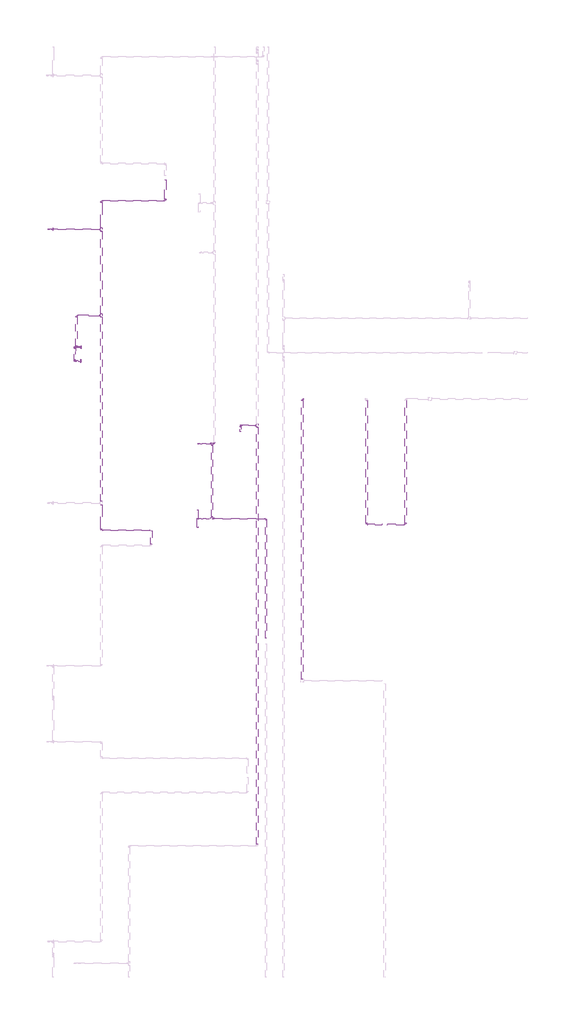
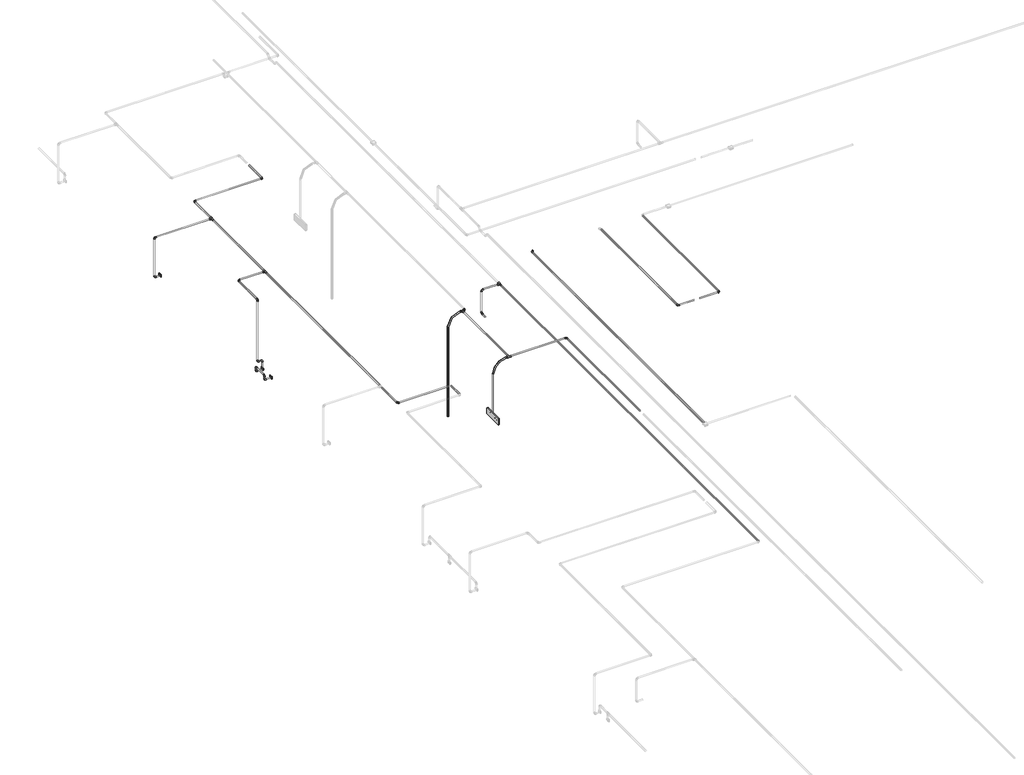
# One storey, part 14 of 40: 35 cable carrier segments, 27 cable carrier fittings, 3 electric appliances, 1 alarm.
"""IFC4 building model written with IfcOpenShell, lengths in millimetres."""

from ifc_helpers import new_model, si_unit, point, frame, frame_2d, origin, place, context, project, spatial, circle_curve, trimmed, segment, composite_curve, outline, extrude, transform, mapped, element, save
from components import alarm_4b7e8fd8, cable_carrier_fitting_69f1a801, cable_carrier_fitting_6f8a8c02, cable_carrier_fitting_d6922372, cable_carrier_fitting_8fd13dfc, cable_carrier_fitting_70942936, electric_appliance_5961a143

model = new_model("IFC4")

# Units and contexts
model_context = context("Model", 3, world=origin())
ifc_project = project(units=[si_unit("LENGTHUNIT", "METRE", prefix="MILLI")], contexts=[model_context])

# Site, building, storey
site = spatial("IfcSite", under=ifc_project)
building = spatial("IfcBuilding", under=site)
storey = spatial("IfcBuildingStorey", under=building, Name="1 этаж", Elevation=0.0)

# Alarm
placement = place(None, origin())
alarm_shape = alarm_4b7e8fd8(model_context)
element("IfcAlarm", 1, ObjectType="RBZ_Оповещатель_Световой_Рубеж_ОПОП1-R3(грань) : ОПОП 1-R3 \"Выход\"", at=placement, inside=storey, context=model_context, shape_type="MappedRepresentation", body=[
    mapped(alarm_shape, transform((-35912.3240021, 2404.6370105, 2300.0), x_axis=(0.0, 1.0, 0.0), y_axis=(0.0, 0.0, 1.0), z_axis=(1.0, 0.0, 0.0))),
])

# Cable carrier fittings
cable_carrier_fitting_shape = cable_carrier_fitting_69f1a801(model_context)
element("IfcCableCarrierFitting", 2, ObjectType="ADSK_Поворот_Минимальный размер : Неспецифицируемый", at=placement, inside=storey, context=model_context, shape_type="MappedRepresentation", body=[
    mapped(cable_carrier_fitting_shape, transform((-32465.8231258, 2309.6370105, 3187.0041146), x_axis=(0.9999999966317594, 0.0, 8.20760701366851e-05), y_axis=(0.0, 1.0000000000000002, 0.0), z_axis=(-8.20760701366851e-05, 0.0, 0.9999999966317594))),
])
element("IfcCableCarrierFitting", 3, ObjectType="ADSK_Поворот_Минимальный размер : Неспецифицируемый", at=placement, inside=storey, context=model_context, shape_type="MappedRepresentation", body=[
    mapped(cable_carrier_fitting_shape, transform((-35623.0641762, 3642.1370105, 3190.0666752), x_axis=(1.0, 0.0, 0.0), y_axis=(0.0, 1.0, 0.0), z_axis=(0.0, 0.0, 1.0))),
])
element("IfcCableCarrierFitting", 4, ObjectType="ADSK_Поворот_Минимальный размер : Неспецифицируемый", at=placement, inside=storey, context=model_context, shape_type="MappedRepresentation", body=[
    mapped(cable_carrier_fitting_shape, transform((-34172.3240021, 4379.6370105, 3187.0), x_axis=(-0.9999999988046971, 0.0, -4.8893821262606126e-05), y_axis=(0.0, -1.0, 0.0), z_axis=(-4.8893821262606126e-05, 0.0, 0.9999999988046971))),
])
element("IfcCableCarrierFitting", 5, ObjectType="ADSK_Поворот_Минимальный размер : Неспецифицируемый", at=placement, inside=storey, context=model_context, shape_type="MappedRepresentation", body=[
    mapped(cable_carrier_fitting_shape, transform((-33108.8239961, 2309.6370105, 3187.002391), x_axis=(0.0, -1.0, 0.0), y_axis=(1.0, 0.0, 0.0), z_axis=(0.0, 0.0, 1.0))),
])
element("IfcCableCarrierFitting", 6, ObjectType="ADSK_Поворот_Минимальный размер : Неспецифицируемый", at=placement, inside=storey, context=model_context, shape_type="MappedRepresentation", body=[
    mapped(cable_carrier_fitting_shape, transform((-34772.3240021, 2404.6370107, 3187.0), x_axis=(0.0, 1.0, 0.0), y_axis=(-0.9999999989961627, 0.0, 4.480708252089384e-05), z_axis=(4.480708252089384e-05, 0.0, 0.9999999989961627))),
])
element("IfcCableCarrierFitting", 7, ObjectType="ADSK_Поворот_Минимальный размер : Неспецифицируемый", at=placement, inside=storey, context=model_context, shape_type="MappedRepresentation", body=[
    mapped(cable_carrier_fitting_shape, transform((-37489.3240021, 2212.3808591, 3187.0), x_axis=(0.0, -1.0, 0.0), y_axis=(1.0, 0.0, 0.0), z_axis=(0.0, 0.0, 1.0))),
])
element("IfcCableCarrierFitting", 8, ObjectType="ADSK_Поворот_Минимальный размер : Неспецифицируемый", at=placement, inside=storey, context=model_context, shape_type="MappedRepresentation", body=[
    mapped(cable_carrier_fitting_shape, transform((-38370.3240021, 7177.1370105, 2535.1), x_axis=(-1.0, 0.0, 0.0), y_axis=(0.0, 0.0, 1.0), z_axis=(0.0, 1.0, 0.0))),
])
element("IfcCableCarrierFitting", 9, ObjectType="ADSK_Поворот_Минимальный размер : Неспецифицируемый", at=placement, inside=storey, context=model_context, shape_type="MappedRepresentation", body=[
    mapped(cable_carrier_fitting_shape, transform((-37489.3240021, 7649.6370105, 3187.0), x_axis=(-1.0, 0.0, 0.0), y_axis=(0.0, -1.0, 0.0), z_axis=(0.0, 0.0, 1.0))),
])
element("IfcCableCarrierFitting", 10, ObjectType="ADSK_Поворот_Минимальный размер : Неспецифицируемый", at=placement, inside=storey, context=model_context, shape_type="MappedRepresentation", body=[
    mapped(cable_carrier_fitting_shape, transform((-36434.8240021, 7649.6370105, 3187.0), x_axis=(1.0, 0.0, 0.0), y_axis=(0.0, 1.0, 0.0), z_axis=(0.0, 0.0, 1.0))),
])
element("IfcCableCarrierFitting", 11, ObjectType="ADSK_Поворот_Минимальный размер : Неспецифицируемый", at=placement, inside=storey, context=model_context, shape_type="MappedRepresentation", body=[
    mapped(cable_carrier_fitting_shape, transform((-35192.3240021, 3943.8368161, 2797.4861504), x_axis=(0.0, 1.0, 0.0), y_axis=(0.0, 0.0, 1.0), z_axis=(1.0, 0.0, 0.0))),
])
element("IfcCableCarrierFitting", 12, ObjectType="ADSK_Поворот_Минимальный размер : Неспецифицируемый", at=placement, inside=storey, context=model_context, shape_type="MappedRepresentation", body=[
    mapped(cable_carrier_fitting_shape, transform((-37902.3240021, 5754.6370105, 3187.0), x_axis=(-1.0, 0.0, 0.0), y_axis=(0.0, -1.0, 0.0), z_axis=(0.0, 0.0, 1.0))),
])
element("IfcCableCarrierFitting", 13, ObjectType="ADSK_Поворот_Минимальный размер : Неспецифицируемый", at=placement, inside=storey, context=model_context, shape_type="MappedRepresentation", body=[
    mapped(cable_carrier_fitting_shape, transform((-37929.5238077, 5005.249469, 2028.0911237), x_axis=(-1.0, 0.0, 0.0), y_axis=(0.0, 0.0, 1.0), z_axis=(0.0, 1.0, 0.0))),
])
element("IfcCableCarrierFitting", 14, ObjectType="ADSK_Поворот_Минимальный размер : Неспецифицируемый", at=placement, inside=storey, context=model_context, shape_type="MappedRepresentation", body=[
    mapped(cable_carrier_fitting_shape, transform((-37929.5238077, 5235.4762014, 2028.0911237), x_axis=(-1.0, 0.0, 0.0), y_axis=(0.0, 0.0, 1.0), z_axis=(0.0, 1.0, 0.0))),
])
element("IfcCableCarrierFitting", 15, ObjectType="ADSK_Поворот_Минимальный размер : Неспецифицируемый", at=placement, inside=storey, context=model_context, shape_type="MappedRepresentation", body=[
    mapped(cable_carrier_fitting_shape, transform((-37929.5238077, 5235.4762014, 2100.0), x_axis=(0.0, 0.0, 1.0), y_axis=(0.03870343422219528, -0.9992507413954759, 0.0), z_axis=(0.9992507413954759, 0.03870343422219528, 0.0))),
])
element("IfcCableCarrierFitting", 16, ObjectType="ADSK_Поворот_Минимальный размер : Неспецифицируемый", at=placement, inside=storey, context=model_context, shape_type="MappedRepresentation", body=[
    mapped(cable_carrier_fitting_shape, transform((-37929.5238077, 5005.249469, 2100.0), x_axis=(0.0, 0.0, 1.0), y_axis=(-0.03870343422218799, 0.9992507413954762, 0.0), z_axis=(-0.9992507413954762, -0.03870343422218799, 0.0))),
])
element("IfcCableCarrierFitting", 17, ObjectType="ADSK_Поворот_Минимальный размер : Неспецифицируемый", at=placement, inside=storey, context=model_context, shape_type="MappedRepresentation", body=[
    mapped(cable_carrier_fitting_shape, transform((-37829.3240021, 5235.4762014, 2171.0), x_axis=(0.0, 0.0, 1.0), y_axis=(-1.0, 0.0, 0.0), z_axis=(0.0, -1.0, 0.0))),
])
element("IfcCableCarrierFitting", 18, ObjectType="ADSK_Поворот_Минимальный размер : Неспецифицируемый", at=placement, inside=storey, context=model_context, shape_type="MappedRepresentation", body=[
    mapped(cable_carrier_fitting_shape, transform((-37902.3240021, 5235.4762014, 3187.0), x_axis=(0.0, -1.0, 0.0), y_axis=(0.0, 0.0, -1.0), z_axis=(1.0, 0.0, 0.0))),
])
element("IfcCableCarrierFitting", 19, ObjectType="ADSK_Поворот_Минимальный размер : Неспецифицируемый", at=placement, inside=storey, context=model_context, shape_type="MappedRepresentation", body=[
    mapped(cable_carrier_fitting_shape, transform((-37902.3240021, 5235.4762014, 2171.0), x_axis=(-1.0, 0.0, 0.0), y_axis=(0.0, 0.0, 1.0), z_axis=(0.0, 1.0, 0.0))),
])
element("IfcCableCarrierFitting", 20, ObjectType="ADSK_Поворот_Минимальный размер : Неспецифицируемый", at=placement, inside=storey, context=model_context, shape_type="MappedRepresentation", body=[
    mapped(cable_carrier_fitting_shape, transform((-38370.3240021, 7177.1370105, 3187.0), x_axis=(0.0, 0.0, 1.0), y_axis=(1.0, 0.0, 0.0), z_axis=(0.0, 1.0, 0.0))),
])
cable_carrier_fitting_2_shape = cable_carrier_fitting_6f8a8c02(model_context)
element("IfcCableCarrierFitting", 21, ObjectType="ADSK_Поворот_Минимальный размер : Неспецифицируемый", at=placement, inside=storey, context=model_context, shape_type="MappedRepresentation", body=[
    mapped(cable_carrier_fitting_2_shape, transform((-35884.8402119, 3642.1370105, 3191.6), x_axis=(0.0, 0.0, 1.0), y_axis=(1.0, 0.0, 0.0), z_axis=(0.0, 1.0, 0.0))),
])
cable_carrier_fitting_3_shape = cable_carrier_fitting_d6922372(model_context)
element("IfcCableCarrierFitting", 22, ObjectType="ADSK_Поворот_Минимальный размер : Неспецифицируемый", at=placement, inside=storey, context=model_context, shape_type="MappedRepresentation", body=[
    mapped(cable_carrier_fitting_3_shape, transform((-35902.3241209, 2404.6370107, 3187.0297673), x_axis=(0.0, 0.0, 1.0), y_axis=(1.0, 0.0, 0.0), z_axis=(0.0, 1.0, 0.0))),
])
cable_carrier_fitting_4_shape = cable_carrier_fitting_8fd13dfc(model_context)
element("IfcCableCarrierFitting", 23, ObjectType="ADSK_Тройник : ПВХ", at=placement, inside=storey, context=model_context, shape_type="MappedRepresentation", body=[
    mapped(cable_carrier_fitting_4_shape, transform((-35662.3241209, 2404.6370107, 3187.0235289), x_axis=(-0.9999999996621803, 0.0, 2.5993065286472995e-05), y_axis=(0.0, -1.0000000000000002, 0.0), z_axis=(2.5993065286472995e-05, 0.0, 0.9999999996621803))),
])
element("IfcCableCarrierFitting", 24, ObjectType="ADSK_Тройник : ПВХ", at=placement, inside=storey, context=model_context, shape_type="MappedRepresentation", body=[
    mapped(cable_carrier_fitting_4_shape, transform((-35662.3241209, 3642.1370105, 3187.0235289), x_axis=(1.0, 0.0, 0.0), y_axis=(0.0, 1.0, 0.0), z_axis=(0.0, 0.0, 1.0))),
])
element("IfcCableCarrierFitting", 25, ObjectType="ADSK_Тройник : ПВХ", at=placement, inside=storey, context=model_context, shape_type="MappedRepresentation", body=[
    mapped(cable_carrier_fitting_4_shape, transform((-37489.3240021, 5754.6370105, 3187.0), x_axis=(0.0, -1.0, 0.0), y_axis=(1.0, 0.0, 0.0), z_axis=(0.0, 0.0, 1.0))),
])
element("IfcCableCarrierFitting", 26, ObjectType="ADSK_Тройник : ПВХ", at=placement, inside=storey, context=model_context, shape_type="MappedRepresentation", body=[
    mapped(cable_carrier_fitting_4_shape, transform((-37489.3240021, 7177.1370105, 3187.0), x_axis=(0.0, -1.0, 0.0), y_axis=(1.0, 0.0, 0.0), z_axis=(0.0, 0.0, 1.0))),
])
element("IfcCableCarrierFitting", 27, ObjectType="ADSK_Тройник : ПВХ", at=placement, inside=storey, context=model_context, shape_type="MappedRepresentation", body=[
    mapped(cable_carrier_fitting_4_shape, transform((-34914.8240021, 3943.8368161, 3179.9916728), x_axis=(0.0, -0.9999999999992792, 1.2006099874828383e-06), y_axis=(1.0, 0.0, 0.0), z_axis=(0.0, 1.2006099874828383e-06, 0.9999999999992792))),
])
cable_carrier_fitting_5_shape = cable_carrier_fitting_70942936(model_context)
element("IfcCableCarrierFitting", 28, ObjectType="ADSK_Поворот_Минимальный размер : Неспецифицируемый", at=placement, inside=storey, context=model_context, shape_type="MappedRepresentation", body=[
    mapped(cable_carrier_fitting_5_shape, transform((-35192.3240021, 3943.8368161, 3180.0603722), x_axis=(0.0, 0.0, 1.0), y_axis=(1.0, 0.0, 0.0), z_axis=(0.0, 1.0, 0.0))),
])

# Cable carrier segments
element("IfcCableCarrierSegment", 29, ObjectType="Гофрированная труба", at=placement, inside=storey, context=model_context, shape_type="SweptSolid", body=[
    extrude(outline(composite_curve([segment(trimmed(circle_curve(frame_2d((2309.6370105, 3187.002391)), 10.0), [point((2299.6370105, 3187.002391))], [point((2309.6370105, 3197.002391))], False, "CARTESIAN"), True, "CONTINUOUS"), segment(trimmed(circle_curve(frame_2d((2309.6370105, 3187.002391)), 10.0), [point((2309.6370105, 3197.002391))], [point((2319.6370105, 3187.002391))], False, "CARTESIAN"), True, "CONTINUOUS"), segment(trimmed(circle_curve(frame_2d((2309.6370105, 3187.002391)), 10.0), [point((2319.6370105, 3187.002391))], [point((2309.6370105, 3177.002391))], False, "CARTESIAN"), True, "CONTINUOUS"), segment(trimmed(circle_curve(frame_2d((2309.6370105, 3187.002391)), 10.0), [point((2309.6370105, 3177.002391))], [point((2299.6370105, 3187.002391))], False, "CARTESIAN"), True, "CONTINUOUS")], self_intersect=False)), frame((-32765.8240021, 0.0, 0.0), z_axis=(1.0, 0.0, 0.0), x_axis=(0.0, 1.0, 0.0)), (0.0, 0.0, 1.0), 279.0008764),
])
element("IfcCableCarrierSegment", 30, ObjectType="Гофрированная труба", at=placement, inside=storey, context=model_context, shape_type="SweptSolid", body=[
    extrude(outline(composite_curve([segment(trimmed(circle_curve(frame_2d((3187.0041146, -32465.8231258)), 10.0), [point((3187.0049354, -32455.8231258))], [point((3197.0041146, -32465.8239465))], False, "CARTESIAN"), True, "CONTINUOUS"), segment(trimmed(circle_curve(frame_2d((3187.0041146, -32465.8231258)), 10.0), [point((3197.0041146, -32465.8239465))], [point((3187.0032938, -32475.8231257))], False, "CARTESIAN"), True, "CONTINUOUS"), segment(trimmed(circle_curve(frame_2d((3187.0041146, -32465.8231258)), 10.0), [point((3187.0032938, -32475.8231257))], [point((3177.0041146, -32465.822305))], False, "CARTESIAN"), True, "CONTINUOUS"), segment(trimmed(circle_curve(frame_2d((3187.0041146, -32465.8231258)), 10.0), [point((3177.0041146, -32465.822305))], [point((3187.0049354, -32455.8231258))], False, "CARTESIAN"), True, "CONTINUOUS")], self_intersect=False)), frame((0.0, 2330.6370105, 0.0), z_axis=(0.0, 1.0, 0.0), x_axis=(0.0, 0.0, 1.0)), (0.0, 0.0, 1.0), 2027.9999998),
])
element("IfcCableCarrierSegment", 31, ObjectType="Гофрированная труба", at=placement, inside=storey, context=model_context, shape_type="SweptSolid", body=[
    extrude(outline(composite_curve([segment(trimmed(circle_curve(frame_2d((3187.0, -34172.3240021)), 10.0), [point((3187.0, -34162.3240021))], [point((3197.0, -34172.3240021))], False, "CARTESIAN"), True, "CONTINUOUS"), segment(trimmed(circle_curve(frame_2d((3187.0, -34172.3240021)), 10.0), [point((3197.0, -34172.3240021))], [point((3187.0, -34182.3240021))], False, "CARTESIAN"), True, "CONTINUOUS"), segment(trimmed(circle_curve(frame_2d((3187.0, -34172.3240021)), 10.0), [point((3187.0, -34182.3240021))], [point((3177.0, -34172.3240021))], False, "CARTESIAN"), True, "CONTINUOUS"), segment(trimmed(circle_curve(frame_2d((3187.0, -34172.3240021)), 10.0), [point((3177.0, -34172.3240021))], [point((3187.0, -34162.3240021))], False, "CARTESIAN"), True, "CONTINUOUS")], self_intersect=False)), frame((0.0, -244.3629895, 0.0), z_axis=(0.0, 1.0, 0.0), x_axis=(0.0, 0.0, 1.0)), (0.0, 0.0, 1.0), 4603.0),
])
element("IfcCableCarrierSegment", 32, ObjectType="Гофрированная труба", at=placement, inside=storey, context=model_context, shape_type="SweptSolid", body=[
    extrude(outline(composite_curve([segment(trimmed(circle_curve(frame_2d((0.0, 9.9999999)), 10.0), [point((-10.0, 9.9999999))], [point((0.0, 19.9999999))], False, "CARTESIAN"), True, "CONTINUOUS"), segment(trimmed(circle_curve(frame_2d((0.0, 9.9999999)), 10.0), [point((0.0, 19.9999999))], [point((10.0, 9.9999999))], False, "CARTESIAN"), True, "CONTINUOUS"), segment(trimmed(circle_curve(frame_2d((0.0, 9.9999999)), 10.0), [point((10.0, 9.9999999))], [point((0.0, 0.0))], False, "CARTESIAN"), True, "CONTINUOUS"), segment(trimmed(circle_curve(frame_2d((0.0, 9.9999999)), 10.0), [point((0.0, 0.0))], [point((-10.0, 9.9999999))], False, "CARTESIAN"), True, "CONTINUOUS")], self_intersect=False)), frame((-34793.324262, 2404.6370107, 3177.000941), z_axis=(-0.9999999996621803, 0.0, 2.5993065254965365e-05), x_axis=(0.0, -1.0, 0.0)), (0.0, 0.0, 1.0), 839.0001191),
])
element("IfcCableCarrierSegment", 33, ObjectType="Гофрированная труба", at=placement, inside=storey, context=model_context, shape_type="SweptSolid", body=[
    extrude(outline(composite_curve([segment(trimmed(circle_curve(frame_2d((0.0, 10.0)), 10.0), [point((-10.0, 10.0))], [point((0.0, 20.0))], False, "CARTESIAN"), True, "CONTINUOUS"), segment(trimmed(circle_curve(frame_2d((0.0, 10.0)), 10.0), [point((0.0, 20.0))], [point((10.0, 10.0))], False, "CARTESIAN"), True, "CONTINUOUS"), segment(trimmed(circle_curve(frame_2d((0.0, 10.0)), 10.0), [point((10.0, 10.0))], [point((0.0, 0.0))], False, "CARTESIAN"), True, "CONTINUOUS"), segment(trimmed(circle_curve(frame_2d((0.0, 10.0)), 10.0), [point((0.0, 0.0))], [point((-10.0, 10.0))], False, "CARTESIAN"), True, "CONTINUOUS")], self_intersect=False)), frame((-35902.3240021, 2394.6370105, 2350.0), z_axis=(-1.8360093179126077e-07, 2.0749087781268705e-10, 0.9999999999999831), x_axis=(0.9999999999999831, 0.0, 1.8360093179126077e-07)), (0.0, 0.0, 1.0), 647.0248545),
])
element("IfcCableCarrierSegment", 34, ObjectType="Гофрированная труба", at=placement, inside=storey, context=model_context, shape_type="SweptSolid", body=[
    extrude(outline(composite_curve([segment(trimmed(circle_curve(frame_2d((3187.0235289, -35662.3241209)), 10.0), [point((3187.023269, -35652.3241209))], [point((3197.0235289, -35662.323861))], False, "CARTESIAN"), True, "CONTINUOUS"), segment(trimmed(circle_curve(frame_2d((3187.0235289, -35662.3241209)), 10.0), [point((3197.0235289, -35662.323861))], [point((3187.0237889, -35672.3241209))], False, "CARTESIAN"), True, "CONTINUOUS"), segment(trimmed(circle_curve(frame_2d((3187.0235289, -35662.3241209)), 10.0), [point((3187.0237889, -35672.3241209))], [point((3177.0235289, -35662.3243808))], False, "CARTESIAN"), True, "CONTINUOUS"), segment(trimmed(circle_curve(frame_2d((3187.0235289, -35662.3241209)), 10.0), [point((3177.0235289, -35662.3243808))], [point((3187.023269, -35652.3241209))], False, "CARTESIAN"), True, "CONTINUOUS")], self_intersect=False)), frame((0.0, 2434.6370107, 0.0), z_axis=(0.0, 1.0, 0.0), x_axis=(0.0, 0.0, 1.0)), (0.0, 0.0, 1.0), 1177.4999999),
])
element("IfcCableCarrierSegment", 35, ObjectType="Гофрированная труба", at=placement, inside=storey, context=model_context, shape_type="SweptSolid", body=[
    extrude(outline(composite_curve([segment(trimmed(circle_curve(frame_2d((-35884.8402119, 3642.1370105)), 10.0), [point((-35894.8402119, 3642.1370105))], [point((-35884.8402119, 3652.1370105))], False, "CARTESIAN"), True, "CONTINUOUS"), segment(trimmed(circle_curve(frame_2d((-35884.8402119, 3642.1370105)), 10.0), [point((-35884.8402119, 3652.1370105))], [point((-35874.8402119, 3642.1370105))], False, "CARTESIAN"), True, "CONTINUOUS"), segment(trimmed(circle_curve(frame_2d((-35884.8402119, 3642.1370105)), 10.0), [point((-35874.8402119, 3642.1370105))], [point((-35884.8402119, 3632.1370105))], False, "CARTESIAN"), True, "CONTINUOUS"), segment(trimmed(circle_curve(frame_2d((-35884.8402119, 3642.1370105)), 10.0), [point((-35884.8402119, 3632.1370105))], [point((-35894.8402119, 3642.1370105))], False, "CARTESIAN"), True, "CONTINUOUS")], self_intersect=False)), frame((0.0, 0.0, 1544.0), z_axis=(0.0, 0.0, 1.0), x_axis=(1.0, 0.0, 0.0)), (0.0, 0.0, 1.0), 1457.6),
])
element("IfcCableCarrierSegment", 36, ObjectType="Гофрированная труба", at=placement, inside=storey, context=model_context, shape_type="SweptSolid", body=[
    extrude(outline(composite_curve([segment(trimmed(circle_curve(frame_2d((3187.002391, -33108.8239961)), 10.0), [point((3187.0024041, -33098.8239961))], [point((3197.002391, -33108.8240092))], False, "CARTESIAN"), True, "CONTINUOUS"), segment(trimmed(circle_curve(frame_2d((3187.002391, -33108.8239961)), 10.0), [point((3197.002391, -33108.8240092))], [point((3187.0023779, -33118.8239961))], False, "CARTESIAN"), True, "CONTINUOUS"), segment(trimmed(circle_curve(frame_2d((3187.002391, -33108.8239961)), 10.0), [point((3187.0023779, -33118.8239961))], [point((3177.002391, -33108.823983))], False, "CARTESIAN"), True, "CONTINUOUS"), segment(trimmed(circle_curve(frame_2d((3187.002391, -33108.8239961)), 10.0), [point((3177.002391, -33108.823983))], [point((3187.0024041, -33098.8239961))], False, "CARTESIAN"), True, "CONTINUOUS")], self_intersect=False)), frame((0.0, 2330.6370105, 0.0), z_axis=(0.0, 1.0, 0.0), x_axis=(0.0, 0.0, 1.0)), (0.0, 0.0, 1.0), 2028.0),
])
element("IfcCableCarrierSegment", 37, ObjectType="Гофрированная труба", at=placement, inside=storey, context=model_context, shape_type="SweptSolid", body=[
    extrude(outline(composite_curve([segment(trimmed(circle_curve(frame_2d((2309.6370105, 3187.002391)), 10.0), [point((2319.6370105, 3187.002391))], [point((2309.6370105, 3177.002391))], False, "CARTESIAN"), True, "CONTINUOUS"), segment(trimmed(circle_curve(frame_2d((2309.6370105, 3187.002391)), 10.0), [point((2309.6370105, 3177.002391))], [point((2299.6370105, 3187.002391))], False, "CARTESIAN"), True, "CONTINUOUS"), segment(trimmed(circle_curve(frame_2d((2309.6370105, 3187.002391)), 10.0), [point((2299.6370105, 3187.002391))], [point((2309.6370105, 3197.002391))], False, "CARTESIAN"), True, "CONTINUOUS"), segment(trimmed(circle_curve(frame_2d((2309.6370105, 3187.002391)), 10.0), [point((2309.6370105, 3197.002391))], [point((2319.6370105, 3187.002391))], False, "CARTESIAN"), True, "CONTINUOUS")], self_intersect=False)), frame((-33087.8239961, 0.0, 0.0), z_axis=(1.0, 0.0, 0.0), x_axis=(0.0, 1.0, 0.0)), (0.0, 0.0, 1.0), 228.999994),
])
element("IfcCableCarrierSegment", 38, ObjectType="Гофрированная труба", at=placement, inside=storey, context=model_context, shape_type="SweptSolid", body=[
    extrude(outline(composite_curve([segment(trimmed(circle_curve(frame_2d((3187.0, -34772.3240021)), 10.0), [point((3187.0, -34762.3240021))], [point((3197.0, -34772.3240021))], False, "CARTESIAN"), True, "CONTINUOUS"), segment(trimmed(circle_curve(frame_2d((3187.0, -34772.3240021)), 10.0), [point((3197.0, -34772.3240021))], [point((3187.0, -34782.3240021))], False, "CARTESIAN"), True, "CONTINUOUS"), segment(trimmed(circle_curve(frame_2d((3187.0, -34772.3240021)), 10.0), [point((3187.0, -34782.3240021))], [point((3177.0, -34772.3240021))], False, "CARTESIAN"), True, "CONTINUOUS"), segment(trimmed(circle_curve(frame_2d((3187.0, -34772.3240021)), 10.0), [point((3177.0, -34772.3240021))], [point((3187.0, -34762.3240021))], False, "CARTESIAN"), True, "CONTINUOUS")], self_intersect=False)), frame((0.0, 433.6370105, 0.0), z_axis=(0.0, 1.0, 0.0), x_axis=(0.0, 0.0, 1.0)), (0.0, 0.0, 1.0), 1950.0000001),
])
element("IfcCableCarrierSegment", 39, ObjectType="Гофрированная труба", at=placement, inside=storey, context=model_context, shape_type="SweptSolid", body=[
    extrude(outline(composite_curve([segment(trimmed(circle_curve(frame_2d((3187.0, -37489.3240021)), 10.0), [point((3187.0, -37479.3240021))], [point((3197.0, -37489.3240021))], False, "CARTESIAN"), True, "CONTINUOUS"), segment(trimmed(circle_curve(frame_2d((3187.0, -37489.3240021)), 10.0), [point((3197.0, -37489.3240021))], [point((3187.0, -37499.3240021))], False, "CARTESIAN"), True, "CONTINUOUS"), segment(trimmed(circle_curve(frame_2d((3187.0, -37489.3240021)), 10.0), [point((3187.0, -37499.3240021))], [point((3177.0, -37489.3240021))], False, "CARTESIAN"), True, "CONTINUOUS"), segment(trimmed(circle_curve(frame_2d((3187.0, -37489.3240021)), 10.0), [point((3177.0, -37489.3240021))], [point((3187.0, -37479.3240021))], False, "CARTESIAN"), True, "CONTINUOUS")], self_intersect=False)), frame((0.0, 2233.3808591, 0.0), z_axis=(0.0, 1.0, 0.0), x_axis=(0.0, 0.0, 1.0)), (0.0, 0.0, 1.0), 398.7561514),
])
element("IfcCableCarrierSegment", 40, ObjectType="Гофрированная труба", at=placement, inside=storey, context=model_context, shape_type="SweptSolid", body=[
    extrude(outline(composite_curve([segment(trimmed(circle_curve(frame_2d((3184.0, -36664.6678725)), 10.0), [point((3184.0, -36674.6678725))], [point((3174.0, -36664.6678725))], False, "CARTESIAN"), True, "CONTINUOUS"), segment(trimmed(circle_curve(frame_2d((3184.0, -36664.6678725)), 10.0), [point((3174.0, -36664.6678725))], [point((3184.0, -36654.6678725))], False, "CARTESIAN"), True, "CONTINUOUS"), segment(trimmed(circle_curve(frame_2d((3184.0, -36664.6678725)), 10.0), [point((3184.0, -36654.6678725))], [point((3194.0, -36664.6678725))], False, "CARTESIAN"), True, "CONTINUOUS"), segment(trimmed(circle_curve(frame_2d((3184.0, -36664.6678725)), 10.0), [point((3194.0, -36664.6678725))], [point((3184.0, -36674.6678725))], False, "CARTESIAN"), True, "CONTINUOUS")], self_intersect=False)), frame((0.0, 1983.3808591, 0.0), z_axis=(0.0, 1.0, 0.0), x_axis=(0.0, 0.0, 1.0)), (0.0, 0.0, 1.0), 219.0),
])
element("IfcCableCarrierSegment", 41, ObjectType="Гофрированная труба", at=placement, inside=storey, context=model_context, shape_type="SweptSolid", body=[
    extrude(outline(composite_curve([segment(trimmed(circle_curve(frame_2d((2212.3808591, 3187.0)), 10.0), [point((2222.3808591, 3187.0))], [point((2212.3808591, 3177.0))], False, "CARTESIAN"), True, "CONTINUOUS"), segment(trimmed(circle_curve(frame_2d((2212.3808591, 3187.0)), 10.0), [point((2212.3808591, 3177.0))], [point((2202.3808591, 3187.0))], False, "CARTESIAN"), True, "CONTINUOUS"), segment(trimmed(circle_curve(frame_2d((2212.3808591, 3187.0)), 10.0), [point((2202.3808591, 3187.0))], [point((2212.3808591, 3197.0))], False, "CARTESIAN"), True, "CONTINUOUS"), segment(trimmed(circle_curve(frame_2d((2212.3808591, 3187.0)), 10.0), [point((2212.3808591, 3197.0))], [point((2222.3808591, 3187.0))], False, "CARTESIAN"), True, "CONTINUOUS")], self_intersect=False)), frame((-37468.3240021, 0.0, 0.0), z_axis=(1.0, 0.0, 0.0), x_axis=(0.0, 1.0, 0.0)), (0.0, 0.0, 1.0), 771.1561296),
])
element("IfcCableCarrierSegment", 42, ObjectType="Гофрированная труба", at=placement, inside=storey, context=model_context, shape_type="SweptSolid", body=[
    extrude(outline(composite_curve([segment(trimmed(circle_curve(frame_2d((5754.6370105, 3187.0)), 10.0), [point((5744.6370105, 3187.0))], [point((5754.6370105, 3197.0))], False, "CARTESIAN"), True, "CONTINUOUS"), segment(trimmed(circle_curve(frame_2d((5754.6370105, 3187.0)), 10.0), [point((5754.6370105, 3197.0))], [point((5764.6370105, 3187.0))], False, "CARTESIAN"), True, "CONTINUOUS"), segment(trimmed(circle_curve(frame_2d((5754.6370105, 3187.0)), 10.0), [point((5764.6370105, 3187.0))], [point((5754.6370105, 3177.0))], False, "CARTESIAN"), True, "CONTINUOUS"), segment(trimmed(circle_curve(frame_2d((5754.6370105, 3187.0)), 10.0), [point((5754.6370105, 3177.0))], [point((5744.6370105, 3187.0))], False, "CARTESIAN"), True, "CONTINUOUS")], self_intersect=False)), frame((-37881.3240021, 0.0, 0.0), z_axis=(1.0, 0.0, 0.0), x_axis=(0.0, 1.0, 0.0)), (0.0, 0.0, 1.0), 362.0),
])
element("IfcCableCarrierSegment", 43, ObjectType="Гофрированная труба", at=placement, inside=storey, context=model_context, shape_type="SweptSolid", body=[
    extrude(outline(composite_curve([segment(trimmed(circle_curve(frame_2d((3187.0, -37489.3240021)), 10.0), [point((3187.0, -37479.3240021))], [point((3197.0, -37489.3240021))], False, "CARTESIAN"), True, "CONTINUOUS"), segment(trimmed(circle_curve(frame_2d((3187.0, -37489.3240021)), 10.0), [point((3197.0, -37489.3240021))], [point((3187.0, -37499.3240021))], False, "CARTESIAN"), True, "CONTINUOUS"), segment(trimmed(circle_curve(frame_2d((3187.0, -37489.3240021)), 10.0), [point((3187.0, -37499.3240021))], [point((3177.0, -37489.3240021))], False, "CARTESIAN"), True, "CONTINUOUS"), segment(trimmed(circle_curve(frame_2d((3187.0, -37489.3240021)), 10.0), [point((3177.0, -37489.3240021))], [point((3187.0, -37479.3240021))], False, "CARTESIAN"), True, "CONTINUOUS")], self_intersect=False)), frame((0.0, 2692.1370105, 0.0), z_axis=(0.0, 1.0, 0.0), x_axis=(0.0, 0.0, 1.0)), (0.0, 0.0, 1.0), 3032.5),
])
element("IfcCableCarrierSegment", 44, ObjectType="Гофрированная труба", at=placement, inside=storey, context=model_context, shape_type="SweptSolid", body=[
    extrude(outline(composite_curve([segment(trimmed(circle_curve(frame_2d((-37902.3240021, 5235.4762014)), 10.0), [point((-37892.3240021, 5235.4762014))], [point((-37902.3240021, 5225.4762014))], False, "CARTESIAN"), True, "CONTINUOUS"), segment(trimmed(circle_curve(frame_2d((-37902.3240021, 5235.4762014)), 10.0), [point((-37902.3240021, 5225.4762014))], [point((-37912.3240021, 5235.4762014))], False, "CARTESIAN"), True, "CONTINUOUS"), segment(trimmed(circle_curve(frame_2d((-37902.3240021, 5235.4762014)), 10.0), [point((-37912.3240021, 5235.4762014))], [point((-37902.3240021, 5245.4762014))], False, "CARTESIAN"), True, "CONTINUOUS"), segment(trimmed(circle_curve(frame_2d((-37902.3240021, 5235.4762014)), 10.0), [point((-37902.3240021, 5245.4762014))], [point((-37892.3240021, 5235.4762014))], False, "CARTESIAN"), True, "CONTINUOUS")], self_intersect=False)), frame((0.0, 0.0, 2192.0), z_axis=(0.0, 0.0, 1.0), x_axis=(1.0, 0.0, 0.0)), (0.0, 0.0, 1.0), 974.0),
])
element("IfcCableCarrierSegment", 45, ObjectType="Гофрированная труба", at=placement, inside=storey, context=model_context, shape_type="SweptSolid", body=[
    extrude(outline(composite_curve([segment(trimmed(circle_curve(frame_2d((7177.1370105, 3187.0)), 10.0), [point((7167.1370105, 3187.0))], [point((7177.1370105, 3197.0))], False, "CARTESIAN"), True, "CONTINUOUS"), segment(trimmed(circle_curve(frame_2d((7177.1370105, 3187.0)), 10.0), [point((7177.1370105, 3197.0))], [point((7187.1370105, 3187.0))], False, "CARTESIAN"), True, "CONTINUOUS"), segment(trimmed(circle_curve(frame_2d((7177.1370105, 3187.0)), 10.0), [point((7187.1370105, 3187.0))], [point((7177.1370105, 3177.0))], False, "CARTESIAN"), True, "CONTINUOUS"), segment(trimmed(circle_curve(frame_2d((7177.1370105, 3187.0)), 10.0), [point((7177.1370105, 3177.0))], [point((7167.1370105, 3187.0))], False, "CARTESIAN"), True, "CONTINUOUS")], self_intersect=False)), frame((-38349.3240021, 0.0, 0.0), z_axis=(1.0, 0.0, 0.0), x_axis=(0.0, 1.0, 0.0)), (0.0, 0.0, 1.0), 830.0),
])
element("IfcCableCarrierSegment", 46, ObjectType="Гофрированная труба", at=placement, inside=storey, context=model_context, shape_type="SweptSolid", body=[
    extrude(outline(composite_curve([segment(trimmed(circle_curve(frame_2d((-38370.3240021, 7177.1370105)), 10.0), [point((-38380.3240021, 7177.1370105))], [point((-38370.3240021, 7187.1370105))], False, "CARTESIAN"), True, "CONTINUOUS"), segment(trimmed(circle_curve(frame_2d((-38370.3240021, 7177.1370105)), 10.0), [point((-38370.3240021, 7187.1370105))], [point((-38360.3240021, 7177.1370105))], False, "CARTESIAN"), True, "CONTINUOUS"), segment(trimmed(circle_curve(frame_2d((-38370.3240021, 7177.1370105)), 10.0), [point((-38360.3240021, 7177.1370105))], [point((-38370.3240021, 7167.1370105))], False, "CARTESIAN"), True, "CONTINUOUS"), segment(trimmed(circle_curve(frame_2d((-38370.3240021, 7177.1370105)), 10.0), [point((-38370.3240021, 7167.1370105))], [point((-38380.3240021, 7177.1370105))], False, "CARTESIAN"), True, "CONTINUOUS")], self_intersect=False)), frame((0.0, 0.0, 2556.1), z_axis=(0.0, 0.0, 1.0), x_axis=(1.0, 0.0, 0.0)), (0.0, 0.0, 1.0), 609.9),
])
element("IfcCableCarrierSegment", 47, ObjectType="Гофрированная труба", at=placement, inside=storey, context=model_context, shape_type="SweptSolid", body=[
    extrude(outline(composite_curve([segment(trimmed(circle_curve(frame_2d((0.0, 10.0)), 10.0), [point((-10.0, 10.0))], [point((0.0, 20.0))], False, "CARTESIAN"), True, "CONTINUOUS"), segment(trimmed(circle_curve(frame_2d((0.0, 10.0)), 10.0), [point((0.0, 20.0))], [point((10.0, 10.0))], False, "CARTESIAN"), True, "CONTINUOUS"), segment(trimmed(circle_curve(frame_2d((0.0, 10.0)), 10.0), [point((10.0, 10.0))], [point((0.0, 0.0))], False, "CARTESIAN"), True, "CONTINUOUS"), segment(trimmed(circle_curve(frame_2d((0.0, 10.0)), 10.0), [point((0.0, 0.0))], [point((-10.0, 10.0))], False, "CARTESIAN"), True, "CONTINUOUS")], self_intersect=False)), frame((-38289.3254815, 7177.1370105, 2525.0911238), z_axis=(-0.9999999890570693, 0.0, 0.00014793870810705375), x_axis=(0.0, -1.0, 0.0)), (0.0, 0.0, 1.0), 60.0000007),
])
element("IfcCableCarrierSegment", 48, ObjectType="Гофрированная труба", at=placement, inside=storey, context=model_context, shape_type="SweptSolid", body=[
    extrude(outline(composite_curve([segment(trimmed(circle_curve(frame_2d((3187.0, -36434.8240021)), 10.0), [point((3187.0, -36444.8240021))], [point((3177.0, -36434.8240021))], False, "CARTESIAN"), True, "CONTINUOUS"), segment(trimmed(circle_curve(frame_2d((3187.0, -36434.8240021)), 10.0), [point((3177.0, -36434.8240021))], [point((3187.0, -36424.8240021))], False, "CARTESIAN"), True, "CONTINUOUS"), segment(trimmed(circle_curve(frame_2d((3187.0, -36434.8240021)), 10.0), [point((3187.0, -36424.8240021))], [point((3197.0, -36434.8240021))], False, "CARTESIAN"), True, "CONTINUOUS"), segment(trimmed(circle_curve(frame_2d((3187.0, -36434.8240021)), 10.0), [point((3197.0, -36434.8240021))], [point((3187.0, -36444.8240021))], False, "CARTESIAN"), True, "CONTINUOUS")], self_intersect=False)), frame((0.0, 7670.6370105, 0.0), z_axis=(0.0, 1.0, 0.0), x_axis=(0.0, 0.0, 1.0)), (0.0, 0.0, 1.0), 329.0),
])
element("IfcCableCarrierSegment", 49, ObjectType="Гофрированная труба", at=placement, inside=storey, context=model_context, shape_type="SweptSolid", body=[
    extrude(outline(composite_curve([segment(trimmed(circle_curve(frame_2d((7649.6370105, 3187.0)), 10.0), [point((7639.6370105, 3187.0))], [point((7649.6370105, 3197.0))], False, "CARTESIAN"), True, "CONTINUOUS"), segment(trimmed(circle_curve(frame_2d((7649.6370105, 3187.0)), 10.0), [point((7649.6370105, 3197.0))], [point((7659.6370105, 3187.0))], False, "CARTESIAN"), True, "CONTINUOUS"), segment(trimmed(circle_curve(frame_2d((7649.6370105, 3187.0)), 10.0), [point((7659.6370105, 3187.0))], [point((7649.6370105, 3177.0))], False, "CARTESIAN"), True, "CONTINUOUS"), segment(trimmed(circle_curve(frame_2d((7649.6370105, 3187.0)), 10.0), [point((7649.6370105, 3177.0))], [point((7639.6370105, 3187.0))], False, "CARTESIAN"), True, "CONTINUOUS")], self_intersect=False)), frame((-37468.3240021, 0.0, 0.0), z_axis=(1.0, 0.0, 0.0), x_axis=(0.0, 1.0, 0.0)), (0.0, 0.0, 1.0), 1012.5),
])
element("IfcCableCarrierSegment", 50, ObjectType="Гофрированная труба", at=placement, inside=storey, context=model_context, shape_type="SweptSolid", body=[
    extrude(outline(composite_curve([segment(trimmed(circle_curve(frame_2d((3187.0, -37489.3240021)), 10.0), [point((3187.0, -37479.3240021))], [point((3197.0, -37489.3240021))], False, "CARTESIAN"), True, "CONTINUOUS"), segment(trimmed(circle_curve(frame_2d((3187.0, -37489.3240021)), 10.0), [point((3197.0, -37489.3240021))], [point((3187.0, -37499.3240021))], False, "CARTESIAN"), True, "CONTINUOUS"), segment(trimmed(circle_curve(frame_2d((3187.0, -37489.3240021)), 10.0), [point((3187.0, -37499.3240021))], [point((3177.0, -37489.3240021))], False, "CARTESIAN"), True, "CONTINUOUS"), segment(trimmed(circle_curve(frame_2d((3187.0, -37489.3240021)), 10.0), [point((3177.0, -37489.3240021))], [point((3187.0, -37479.3240021))], False, "CARTESIAN"), True, "CONTINUOUS")], self_intersect=False)), frame((0.0, 5784.6370105, 0.0), z_axis=(0.0, 1.0, 0.0), x_axis=(0.0, 0.0, 1.0)), (0.0, 0.0, 1.0), 1362.5),
])
element("IfcCableCarrierSegment", 51, ObjectType="Гофрированная труба", at=placement, inside=storey, context=model_context, shape_type="SweptSolid", body=[
    extrude(outline(composite_curve([segment(trimmed(circle_curve(frame_2d((2797.4861504, -35192.3240021)), 10.0), [point((2797.4861504, -35182.3240021))], [point((2807.4861504, -35192.3240021))], False, "CARTESIAN"), True, "CONTINUOUS"), segment(trimmed(circle_curve(frame_2d((2797.4861504, -35192.3240021)), 10.0), [point((2807.4861504, -35192.3240021))], [point((2797.4861504, -35202.3240021))], False, "CARTESIAN"), True, "CONTINUOUS"), segment(trimmed(circle_curve(frame_2d((2797.4861504, -35192.3240021)), 10.0), [point((2797.4861504, -35202.3240021))], [point((2787.4861504, -35192.3240021))], False, "CARTESIAN"), True, "CONTINUOUS"), segment(trimmed(circle_curve(frame_2d((2797.4861504, -35192.3240021)), 10.0), [point((2787.4861504, -35192.3240021))], [point((2797.4861504, -35182.3240021))], False, "CARTESIAN"), True, "CONTINUOUS")], self_intersect=False)), frame((0.0, 3841.6519004, 0.0), z_axis=(0.0, 1.0, 0.0), x_axis=(0.0, 0.0, 1.0)), (0.0, 0.0, 1.0), 81.1849158),
])
element("IfcCableCarrierSegment", 52, ObjectType="Гофрированная труба", at=placement, inside=storey, context=model_context, shape_type="SweptSolid", body=[
    extrude(outline(composite_curve([segment(trimmed(circle_curve(frame_2d((-35192.3240021, 3943.8368161)), 10.0), [point((-35202.3240021, 3943.8368161))], [point((-35192.3240021, 3953.8368161))], False, "CARTESIAN"), True, "CONTINUOUS"), segment(trimmed(circle_curve(frame_2d((-35192.3240021, 3943.8368161)), 10.0), [point((-35192.3240021, 3953.8368161))], [point((-35182.3240021, 3943.8368161))], False, "CARTESIAN"), True, "CONTINUOUS"), segment(trimmed(circle_curve(frame_2d((-35192.3240021, 3943.8368161)), 10.0), [point((-35182.3240021, 3943.8368161))], [point((-35192.3240021, 3933.8368161))], False, "CARTESIAN"), True, "CONTINUOUS"), segment(trimmed(circle_curve(frame_2d((-35192.3240021, 3943.8368161)), 10.0), [point((-35192.3240021, 3933.8368161))], [point((-35202.3240021, 3943.8368161))], False, "CARTESIAN"), True, "CONTINUOUS")], self_intersect=False)), frame((0.0, 0.0, 2818.4861504), z_axis=(0.0, 0.0, 1.0), x_axis=(1.0, 0.0, 0.0)), (0.0, 0.0, 1.0), 340.5686696),
])
element("IfcCableCarrierSegment", 53, ObjectType="Гофрированная труба", at=placement, inside=storey, context=model_context, shape_type="SweptSolid", body=[
    extrude(outline(composite_curve([segment(trimmed(circle_curve(frame_2d((0.0, -10.0)), 10.0), [point((-10.0, -10.0))], [point((0.0, 0.0))], False, "CARTESIAN"), True, "CONTINUOUS"), segment(trimmed(circle_curve(frame_2d((0.0, -10.0)), 10.0), [point((0.0, 0.0))], [point((10.0, -10.0))], False, "CARTESIAN"), True, "CONTINUOUS"), segment(trimmed(circle_curve(frame_2d((0.0, -10.0)), 10.0), [point((10.0, -10.0))], [point((0.0, -20.0))], False, "CARTESIAN"), True, "CONTINUOUS"), segment(trimmed(circle_curve(frame_2d((0.0, -10.0)), 10.0), [point((0.0, -20.0))], [point((-10.0, -10.0))], False, "CARTESIAN"), True, "CONTINUOUS")], self_intersect=False)), frame((-34944.8267778, 3943.8368161, 3169.9916732), z_axis=(-0.9999999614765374, 0.0, 0.00027757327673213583), x_axis=(0.0, 1.0, 0.0)), (0.0, 0.0, 1.0), 226.4944573),
])
element("IfcCableCarrierSegment", 54, ObjectType="Гофрированная труба", at=placement, inside=storey, context=model_context, shape_type="SweptSolid", body=[
    extrude(outline(composite_curve([segment(trimmed(circle_curve(frame_2d((0.0, 10.0)), 10.0), [point((0.0, 0.0))], [point((-10.0, 10.0))], False, "CARTESIAN"), True, "CONTINUOUS"), segment(trimmed(circle_curve(frame_2d((0.0, 10.0)), 10.0), [point((-10.0, 10.0))], [point((0.0, 20.0))], False, "CARTESIAN"), True, "CONTINUOUS"), segment(trimmed(circle_curve(frame_2d((0.0, 10.0)), 10.0), [point((0.0, 20.0))], [point((10.0, 10.0))], False, "CARTESIAN"), True, "CONTINUOUS"), segment(trimmed(circle_curve(frame_2d((0.0, 10.0)), 10.0), [point((10.0, 10.0))], [point((0.0, 0.0))], False, "CARTESIAN"), True, "CONTINUOUS")], self_intersect=False)), frame((-34924.8240021, 3913.8368161, 3179.9917088), z_axis=(0.0, -0.9999999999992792, 1.200609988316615e-06), x_axis=(0.0, -1.200609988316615e-06, -0.9999999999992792)), (0.0, 0.0, 1.0), 6884.7720769),
])
element("IfcCableCarrierSegment", 55, ObjectType="Гофрированная труба", at=placement, inside=storey, context=model_context, shape_type="SweptSolid", body=[
    extrude(outline(composite_curve([segment(trimmed(circle_curve(frame_2d((3187.0, -37902.3240021)), 10.0), [point((3187.0, -37912.3240021))], [point((3177.0, -37902.3240021))], False, "CARTESIAN"), True, "CONTINUOUS"), segment(trimmed(circle_curve(frame_2d((3187.0, -37902.3240021)), 10.0), [point((3177.0, -37902.3240021))], [point((3187.0, -37892.3240021))], False, "CARTESIAN"), True, "CONTINUOUS"), segment(trimmed(circle_curve(frame_2d((3187.0, -37902.3240021)), 10.0), [point((3187.0, -37892.3240021))], [point((3197.0, -37902.3240021))], False, "CARTESIAN"), True, "CONTINUOUS"), segment(trimmed(circle_curve(frame_2d((3187.0, -37902.3240021)), 10.0), [point((3197.0, -37902.3240021))], [point((3187.0, -37912.3240021))], False, "CARTESIAN"), True, "CONTINUOUS")], self_intersect=False)), frame((0.0, 5256.4762014, 0.0), z_axis=(0.0, 1.0, 0.0), x_axis=(0.0, 0.0, 1.0)), (0.0, 0.0, 1.0), 477.1608091),
])
element("IfcCableCarrierSegment", 56, ObjectType="Гофрированная труба", at=placement, inside=storey, context=model_context, shape_type="SweptSolid", body=[
    extrude(outline(composite_curve([segment(trimmed(circle_curve(frame_2d((0.0, -10.0)), 10.0), [point((-10.0000001, -10.0))], [point((0.0, 0.0))], False, "CARTESIAN"), True, "CONTINUOUS"), segment(trimmed(circle_curve(frame_2d((0.0, -10.0)), 10.0), [point((0.0, 0.0))], [point((10.0, -10.0))], False, "CARTESIAN"), True, "CONTINUOUS"), segment(trimmed(circle_curve(frame_2d((0.0, -10.0)), 10.0), [point((10.0, -10.0))], [point((0.0, -20.0))], False, "CARTESIAN"), True, "CONTINUOUS"), segment(trimmed(circle_curve(frame_2d((0.0, -10.0)), 10.0), [point((0.0, -20.0))], [point((-10.0000001, -10.0))], False, "CARTESIAN"), True, "CONTINUOUS")], self_intersect=False)), frame((-37930.3365798, 5026.2337346, 2090.0), z_axis=(0.008634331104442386, 0.9999627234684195, 0.0), x_axis=(0.9999627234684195, -0.008634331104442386, 0.0)), (0.0, 0.0, 1.0), 188.2652191),
])
element("IfcCableCarrierSegment", 57, ObjectType="Гофрированная труба", at=placement, inside=storey, context=model_context, shape_type="SweptSolid", body=[
    extrude(outline(composite_curve([segment(trimmed(circle_curve(frame_2d((5005.249469, 2028.0911237)), 10.0), [point((5015.249469, 2028.0911237))], [point((5005.249469, 2018.0911237))], False, "CARTESIAN"), True, "CONTINUOUS"), segment(trimmed(circle_curve(frame_2d((5005.249469, 2028.0911237)), 10.0), [point((5005.249469, 2018.0911237))], [point((4995.249469, 2028.0911237))], False, "CARTESIAN"), True, "CONTINUOUS"), segment(trimmed(circle_curve(frame_2d((5005.249469, 2028.0911237)), 10.0), [point((4995.249469, 2028.0911237))], [point((5005.249469, 2038.0911237))], False, "CARTESIAN"), True, "CONTINUOUS"), segment(trimmed(circle_curve(frame_2d((5005.249469, 2028.0911237)), 10.0), [point((5005.249469, 2038.0911237))], [point((5015.249469, 2028.0911237))], False, "CARTESIAN"), True, "CONTINUOUS")], self_intersect=False)), frame((-37908.5238077, 0.0, 0.0), z_axis=(1.0, 0.0, 0.0), x_axis=(0.0, 1.0, 0.0)), (0.0, 0.0, 1.0), 76.1998056),
])
element("IfcCableCarrierSegment", 58, ObjectType="Гофрированная труба", at=placement, inside=storey, context=model_context, shape_type="SweptSolid", body=[
    extrude(outline(composite_curve([segment(trimmed(circle_curve(frame_2d((-37929.5238077, 5005.249469)), 10.0), [point((-37939.5238077, 5005.249469))], [point((-37929.5238077, 5015.249469))], False, "CARTESIAN"), True, "CONTINUOUS"), segment(trimmed(circle_curve(frame_2d((-37929.5238077, 5005.249469)), 10.0), [point((-37929.5238077, 5015.249469))], [point((-37919.5238077, 5005.249469))], False, "CARTESIAN"), True, "CONTINUOUS"), segment(trimmed(circle_curve(frame_2d((-37929.5238077, 5005.249469)), 10.0), [point((-37919.5238077, 5005.249469))], [point((-37929.5238077, 4995.249469))], False, "CARTESIAN"), True, "CONTINUOUS"), segment(trimmed(circle_curve(frame_2d((-37929.5238077, 5005.249469)), 10.0), [point((-37929.5238077, 4995.249469))], [point((-37939.5238077, 5005.249469))], False, "CARTESIAN"), True, "CONTINUOUS")], self_intersect=False)), frame((0.0, 0.0, 2049.0911237), z_axis=(0.0, 0.0, 1.0), x_axis=(1.0, 0.0, 0.0)), (0.0, 0.0, 1.0), 29.9088763),
])
element("IfcCableCarrierSegment", 59, ObjectType="Гофрированная труба", at=placement, inside=storey, context=model_context, shape_type="SweptSolid", body=[
    extrude(outline(composite_curve([segment(trimmed(circle_curve(frame_2d((5235.4762014, 2028.0911237)), 10.0), [point((5245.4762014, 2028.0911237))], [point((5235.4762014, 2018.0911237))], False, "CARTESIAN"), True, "CONTINUOUS"), segment(trimmed(circle_curve(frame_2d((5235.4762014, 2028.0911237)), 10.0), [point((5235.4762014, 2018.0911237))], [point((5225.4762014, 2028.0911237))], False, "CARTESIAN"), True, "CONTINUOUS"), segment(trimmed(circle_curve(frame_2d((5235.4762014, 2028.0911237)), 10.0), [point((5225.4762014, 2028.0911237))], [point((5235.4762014, 2038.0911237))], False, "CARTESIAN"), True, "CONTINUOUS"), segment(trimmed(circle_curve(frame_2d((5235.4762014, 2028.0911237)), 10.0), [point((5235.4762014, 2038.0911237))], [point((5245.4762014, 2028.0911237))], False, "CARTESIAN"), True, "CONTINUOUS")], self_intersect=False)), frame((-37908.5238077, 0.0, 0.0), z_axis=(1.0, 0.0, 0.0), x_axis=(0.0, 1.0, 0.0)), (0.0, 0.0, 1.0), 76.1998056),
])
element("IfcCableCarrierSegment", 60, ObjectType="Гофрированная труба", at=placement, inside=storey, context=model_context, shape_type="SweptSolid", body=[
    extrude(outline(composite_curve([segment(trimmed(circle_curve(frame_2d((-37929.5238077, 5235.4762014)), 10.0), [point((-37939.5238077, 5235.4762014))], [point((-37929.5238077, 5245.4762014))], False, "CARTESIAN"), True, "CONTINUOUS"), segment(trimmed(circle_curve(frame_2d((-37929.5238077, 5235.4762014)), 10.0), [point((-37929.5238077, 5245.4762014))], [point((-37919.5238077, 5235.4762014))], False, "CARTESIAN"), True, "CONTINUOUS"), segment(trimmed(circle_curve(frame_2d((-37929.5238077, 5235.4762014)), 10.0), [point((-37919.5238077, 5235.4762014))], [point((-37929.5238077, 5225.4762014))], False, "CARTESIAN"), True, "CONTINUOUS"), segment(trimmed(circle_curve(frame_2d((-37929.5238077, 5235.4762014)), 10.0), [point((-37929.5238077, 5225.4762014))], [point((-37939.5238077, 5235.4762014))], False, "CARTESIAN"), True, "CONTINUOUS")], self_intersect=False)), frame((0.0, 0.0, 2049.0911237), z_axis=(0.0, 0.0, 1.0), x_axis=(1.0, 0.0, 0.0)), (0.0, 0.0, 1.0), 29.9088763),
])
element("IfcCableCarrierSegment", 61, ObjectType="Гофрированная труба", at=placement, inside=storey, context=model_context, shape_type="SweptSolid", body=[
    extrude(outline(composite_curve([segment(trimmed(circle_curve(frame_2d((5235.4762014, 2171.0)), 10.0), [point((5245.4762014, 2171.0))], [point((5235.4762014, 2161.0))], False, "CARTESIAN"), True, "CONTINUOUS"), segment(trimmed(circle_curve(frame_2d((5235.4762014, 2171.0)), 10.0), [point((5235.4762014, 2161.0))], [point((5225.4762014, 2171.0))], False, "CARTESIAN"), True, "CONTINUOUS"), segment(trimmed(circle_curve(frame_2d((5235.4762014, 2171.0)), 10.0), [point((5225.4762014, 2171.0))], [point((5235.4762014, 2181.0))], False, "CARTESIAN"), True, "CONTINUOUS"), segment(trimmed(circle_curve(frame_2d((5235.4762014, 2171.0)), 10.0), [point((5235.4762014, 2181.0))], [point((5245.4762014, 2171.0))], False, "CARTESIAN"), True, "CONTINUOUS")], self_intersect=False)), frame((-37881.3240021, 0.0, 0.0), z_axis=(1.0, 0.0, 0.0), x_axis=(0.0, 1.0, 0.0)), (0.0, 0.0, 1.0), 31.0),
])
element("IfcCableCarrierSegment", 62, ObjectType="Гофрированная труба", at=placement, inside=storey, context=model_context, shape_type="SweptSolid", body=[
    extrude(outline(composite_curve([segment(trimmed(circle_curve(frame_2d((-37829.3240021, 5235.4762014)), 10.0), [point((-37839.3240021, 5235.4762014))], [point((-37829.3240021, 5245.4762014))], False, "CARTESIAN"), True, "CONTINUOUS"), segment(trimmed(circle_curve(frame_2d((-37829.3240021, 5235.4762014)), 10.0), [point((-37829.3240021, 5245.4762014))], [point((-37819.3240021, 5235.4762014))], False, "CARTESIAN"), True, "CONTINUOUS"), segment(trimmed(circle_curve(frame_2d((-37829.3240021, 5235.4762014)), 10.0), [point((-37819.3240021, 5235.4762014))], [point((-37829.3240021, 5225.4762014))], False, "CARTESIAN"), True, "CONTINUOUS"), segment(trimmed(circle_curve(frame_2d((-37829.3240021, 5235.4762014)), 10.0), [point((-37829.3240021, 5225.4762014))], [point((-37839.3240021, 5235.4762014))], False, "CARTESIAN"), True, "CONTINUOUS")], self_intersect=False)), frame((0.0, 0.0, 2057.1207114), z_axis=(0.0, 0.0, 1.0), x_axis=(1.0, 0.0, 0.0)), (0.0, 0.0, 1.0), 92.8792886),
])
element("IfcCableCarrierSegment", 63, ObjectType="Гофрированная труба", at=placement, inside=storey, context=model_context, shape_type="SweptSolid", body=[
    extrude(outline(composite_curve([segment(trimmed(circle_curve(frame_2d((3187.0, -37489.3240021)), 10.0), [point((3187.0, -37499.3240021))], [point((3177.0, -37489.3240021))], False, "CARTESIAN"), True, "CONTINUOUS"), segment(trimmed(circle_curve(frame_2d((3187.0, -37489.3240021)), 10.0), [point((3177.0, -37489.3240021))], [point((3187.0, -37479.3240021))], False, "CARTESIAN"), True, "CONTINUOUS"), segment(trimmed(circle_curve(frame_2d((3187.0, -37489.3240021)), 10.0), [point((3187.0, -37479.3240021))], [point((3197.0, -37489.3240021))], False, "CARTESIAN"), True, "CONTINUOUS"), segment(trimmed(circle_curve(frame_2d((3187.0, -37489.3240021)), 10.0), [point((3197.0, -37489.3240021))], [point((3187.0, -37499.3240021))], False, "CARTESIAN"), True, "CONTINUOUS")], self_intersect=False)), frame((0.0, 7207.1370105, 0.0), z_axis=(0.0, 1.0, 0.0), x_axis=(0.0, 0.0, 1.0)), (0.0, 0.0, 1.0), 421.5),
])

# Electric appliances
electric_appliance_shape = electric_appliance_5961a143(model_context)
element("IfcElectricAppliance", 64, ObjectType="RBZ_Извещатель_ОхранныйМагнитоуправляемый _Рубеж_ИО 10220-2(грань) : ИО 10220-2", at=placement, inside=storey, context=model_context, shape_type="MappedRepresentation", body=[
    mapped(electric_appliance_shape, transform((-38289.3240021, 7177.1370105, 2547.0), x_axis=(0.0, -1.0, 0.0), y_axis=(0.0, 0.0, -1.0), z_axis=(1.0, 0.0, 0.0))),
])
element("IfcElectricAppliance", 65, ObjectType="RBZ_Извещатель_ОхранныйМагнитоуправляемый _Рубеж_ИО 10220-2(грань) : ИО 10220-2", at=placement, inside=storey, context=model_context, shape_type="MappedRepresentation", body=[
    mapped(electric_appliance_shape, transform((-37832.3240021, 5005.249469, 2040.0), x_axis=(0.0, -1.0, 0.0), y_axis=(0.0, 0.0, -1.0), z_axis=(1.0, 0.0, 0.0))),
])
element("IfcElectricAppliance", 66, ObjectType="RBZ_Извещатель_ОхранныйМагнитоуправляемый _Рубеж_ИО 10220-2(грань) : ИО 10220-2", at=placement, inside=storey, context=model_context, shape_type="MappedRepresentation", body=[
    mapped(electric_appliance_shape, transform((-37832.3240021, 5235.4762014, 2040.0), x_axis=(0.0, -1.0, 0.0), y_axis=(0.0, 0.0, -1.0), z_axis=(1.0, 0.0, 0.0))),
])

save(model, "model.ifc")
